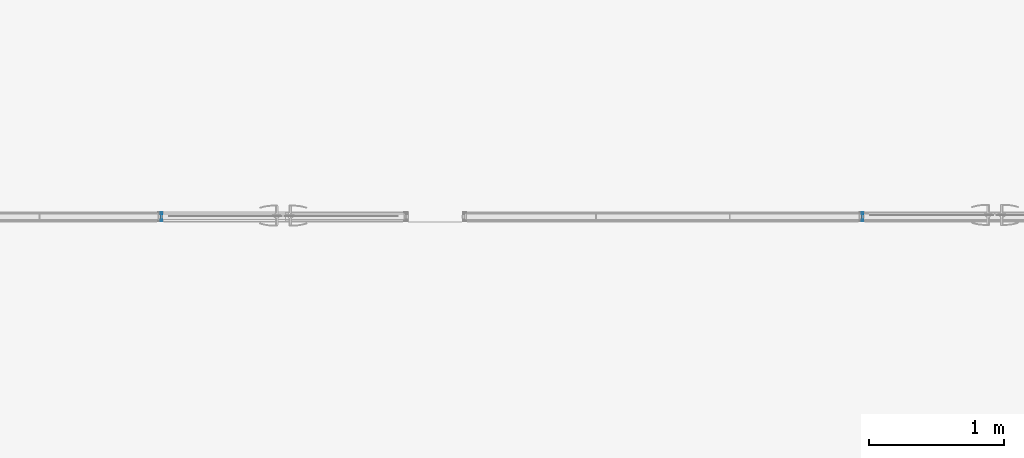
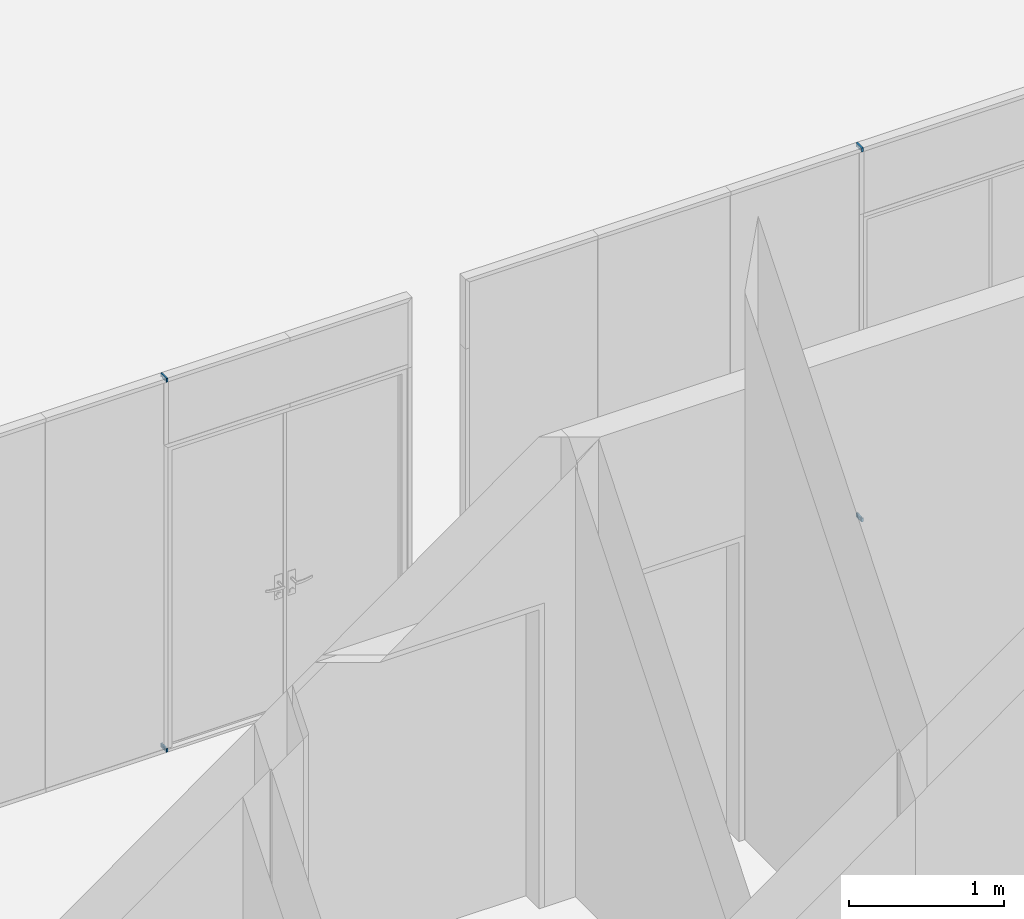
# One storey, part 32 of 62: 8 building element parts, 6 elements without a shape of their own.
"""IFC2X3 building model written with IfcOpenShell, lengths in millimetres."""

from ifc_helpers import new_model, entity, si_unit, converted_unit, derived_unit, money_unit, direction, frame, origin_with_axes, place, context, subcontext, project, spatial, faceted_brep, source, transform, mapped, material, type_object, element, aggregate, save


model = new_model("IFC2X3")

# Units and contexts
model_context = context("Model", 3, precision=0.01, world=origin_with_axes(), true_north=direction((0.0, 1.0)))
body_context = subcontext(model_context, "Body", "Model", "MODEL_VIEW")
ifc_project = project(units=[si_unit("LENGTHUNIT", "METRE", prefix="MILLI"), si_unit("AREAUNIT", "SQUARE_METRE"), si_unit("VOLUMEUNIT", "CUBIC_METRE"), converted_unit("PLANEANGLEUNIT", "DEGREE", entity("IfcPlaneAngleMeasure", 0.0174532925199), si_unit("PLANEANGLEUNIT", "RADIAN"), dimensions=[0, 0, 0, 0, 0, 0, 0]), si_unit("SOLIDANGLEUNIT", "STERADIAN"), money_unit("EUR"), converted_unit("TIMEUNIT", "Year", entity("IfcTimeMeasure", 31556926.0), si_unit("TIMEUNIT", "SECOND"), dimensions=[0, 0, 1, 0, 0, 0, 0]), si_unit("MASSUNIT", "GRAM", prefix="KILO"), si_unit("THERMODYNAMICTEMPERATUREUNIT", "DEGREE_CELSIUS"), si_unit("LUMINOUSINTENSITYUNIT", "LUMEN"), si_unit("ENERGYUNIT", "JOULE", prefix="MEGA"), derived_unit("THERMALCONDUCTANCEUNIT", [(si_unit("POWERUNIT", "WATT"), 1), (si_unit("LENGTHUNIT", "METRE"), -1), (si_unit("THERMODYNAMICTEMPERATUREUNIT", "KELVIN"), -1)]), derived_unit("SPECIFICHEATCAPACITYUNIT", [(si_unit("ENERGYUNIT", "JOULE"), 1), (si_unit("MASSUNIT", "GRAM", prefix="KILO"), -1), (si_unit("THERMODYNAMICTEMPERATUREUNIT", "KELVIN"), -1)]), derived_unit("MASSDENSITYUNIT", [(si_unit("MASSUNIT", "GRAM", prefix="KILO"), 1), (si_unit("VOLUMEUNIT", "CUBIC_METRE"), -1)])], contexts=[model_context])

# Site, building, storey
site_placement = place(None, origin_with_axes())
site = spatial("IfcSite", under=ifc_project, at=site_placement, Name="Puškini 31, Narva", CompositionType="ELEMENT")
building_placement = place(site_placement, origin_with_axes())
building = spatial("IfcBuilding", under=site, at=building_placement, Name="Narva Riigigümnaasium", CompositionType="ELEMENT")
storey_placement = place(building_placement, frame((0.0, 0.0, 660.0), z_axis=(0.0, 0.0, 1.0), x_axis=(1.0, 0.0, 0.0)))
storey = spatial("IfcBuildingStorey", under=building, at=storey_placement, Name="2.korrus +0.66", CompositionType="ELEMENT", Elevation=660.0)

# Curtain wall, members, building element parts
curtain_wall_type = type_object("IfcCurtainWallType", Name="Curtain Wall Type", PredefinedType="NOTDEFINED")
curtain_wall_1_placement = place(storey_placement, frame((45089.2571373, 223837.000216, -1.99739158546e-06), z_axis=(0.0, 0.0, 1.0), x_axis=(1.0, 0.0, 0.0)))
curtain_wall_1 = element("IfcCurtainWall", 1, at=curtain_wall_1_placement, inside=storey, type_object=curtain_wall_type, Name="G-SKLF-52")
member_type_1 = type_object("IfcMemberType", Name="30 x 37", PredefinedType="MULLION")
member_1_placement = place(curtain_wall_1_placement, frame((431.542856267, 0.0, 0.0), z_axis=(-1.0, 0.0, 0.0), x_axis=(0.0, 0.0, 1.0)))
member_1 = element("IfcMember", 2, at=member_1_placement, type_object=member_type_1, Name="G-SKLF-68-raam", ObjectType="MULLION")
ifc_material_1 = material(Name="Klaasvill")
shared_shape_1 = source(origin_with_axes(), body_context, "Body", "Brep", [
    faceted_brep([(7.49999990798, 20.000000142, 0.0), (13.8499999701, 20.000000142, 0.0), (13.8499999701, 20.000000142, 12.9999942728), (7.49999990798, 20.000000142, 12.9999942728), (7.49999990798, 34.0161444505, 0.0), (13.8499999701, 34.0161444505, 0.0), (13.8499999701, 34.0161444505, 12.9999942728), (7.49999990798, 34.0161444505, 12.9999942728)], [[[0, 1, 2, 3]], [[0, 4, 5, 1]], [[1, 5, 6, 2]], [[3, 2, 6, 7]], [[4, 0, 3, 7]], [[5, 4, 7, 6]]]),
    faceted_brep([(24.987414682, 34.0161444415, 0.0), (25.004489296, 32.0307503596, 0.0), (25.004489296, 32.0307503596, 12.9999942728), (24.987414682, 34.0161444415, 12.9999942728), (28.5126239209, 34.0161444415, 0.0), (28.7655837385, 33.0385325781, 0.0), (28.4955493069, 32.0307503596, 0.0), (27.75780152, 31.2930025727, 0.0), (26.7500193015, 31.0229681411, 0.0), (25.742237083, 31.2930025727, 0.0), (25.742237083, 31.2930025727, 12.9999942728), (26.7500193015, 31.0229681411, 12.9999942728), (27.75780152, 31.2930025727, 12.9999942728), (28.4955493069, 32.0307503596, 12.9999942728), (28.7655837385, 33.0385325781, 12.9999942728), (28.5126239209, 34.0161444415, 12.9999942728)], [[[0, 1, 2, 3]], [[0, 4, 5, 6, 7, 8, 9, 1]], [[1, 9, 10, 2]], [[3, 2, 10, 11, 12, 13, 14, 15]], [[4, 0, 3, 15]], [[5, 4, 15, 14]], [[6, 5, 14, 13]], [[7, 6, 13, 12]], [[8, 7, 12, 11]], [[9, 8, 11, 10]]]),
    faceted_brep([(7.49999990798, -19.9999997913, 0.0), (7.49999990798, -34.0161445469, 0.0), (7.49999990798, -34.0161445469, 12.9999942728), (7.49999990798, -19.9999997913, 12.9999942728), (13.8499999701, -19.9999997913, 0.0), (13.8499999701, -34.0161445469, 0.0), (13.8499999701, -34.0161445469, 12.9999942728), (13.8499999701, -19.9999997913, 12.9999942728)], [[[0, 1, 2, 3]], [[0, 4, 5, 1]], [[1, 5, 6, 2]], [[3, 2, 6, 7]], [[4, 0, 3, 7]], [[5, 4, 7, 6]]]),
    faceted_brep([(25.004489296, -32.0307503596, 0.0), (24.987414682, -34.0161444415, 0.0), (24.987414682, -34.0161444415, 12.9999942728), (25.004489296, -32.0307503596, 12.9999942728), (25.742237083, -31.2930025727, 0.0), (26.7500193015, -31.0229681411, 0.0), (27.75780152, -31.2930025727, 0.0), (28.4955493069, -32.0307503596, 0.0), (28.7655837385, -33.0385325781, 0.0), (28.5126239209, -34.0161444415, 0.0), (28.5126239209, -34.0161444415, 12.9999942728), (28.7655837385, -33.0385325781, 12.9999942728), (28.4955493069, -32.0307503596, 12.9999942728), (27.75780152, -31.2930025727, 12.9999942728), (26.7500193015, -31.0229681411, 12.9999942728), (25.742237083, -31.2930025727, 12.9999942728)], [[[0, 1, 2, 3]], [[0, 4, 5, 6, 7, 8, 9, 1]], [[1, 9, 10, 2]], [[3, 2, 10, 11, 12, 13, 14, 15]], [[4, 0, 3, 15]], [[5, 4, 15, 14]], [[6, 5, 14, 13]], [[7, 6, 13, 12]], [[8, 7, 12, 11]], [[9, 8, 11, 10]]]),
])
building_element_part_1_placement = place(member_1_placement, origin_with_axes())
building_element_part_1 = element("IfcBuildingElementPart", 3, at=building_element_part_1_placement, material=ifc_material_1, Name="Klaasvill", context=body_context, shape_type="MappedRepresentation", body=[
    mapped(shared_shape_1, transform((0.0, 0.0, 0.0))),
])
member_2_placement = place(curtain_wall_1_placement, frame((418.5428578, 0.0, 2949.99994304), z_axis=(1.0, 0.0, 0.0), x_axis=(0.0, 0.0, -1.0)))
member_2 = element("IfcMember", 4, at=member_2_placement, type_object=member_type_1, Name="G-SKLF-61-raam", ObjectType="MULLION")
aggregate(curtain_wall_1, [member_1, member_2])
building_element_part_2_placement = place(member_2_placement, origin_with_axes())
building_element_part_2 = element("IfcBuildingElementPart", 5, at=building_element_part_2_placement, material=ifc_material_1, Name="Klaasvill", context=body_context, shape_type="MappedRepresentation", body=[
    mapped(shared_shape_1, transform((0.0, 0.0, 0.0))),
])
ifc_material_2 = material(Name="Teras RAL7012")
shared_shape_2 = source(origin_with_axes(), body_context, "Body", "Brep", [
    faceted_brep([(0.0, -17.0000000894, 0.0), (29.5999996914, -17.0000000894, 0.0), (29.5999996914, -17.0000000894, 12.9999942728), (0.0, -17.0000000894, 12.9999942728), (0.0, 17.0000000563, 0.0), (29.5999996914, 17.0000000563, 0.0), (1.9999999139, 15.0000001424, 0.0), (1.9999999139, -15.0000001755, 0.0), (18.7999996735, -15.0000001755, 0.0), (18.7999996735, 15.0000001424, 0.0), (29.5999996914, 17.0000000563, 12.9999942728), (0.0, 17.0000000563, 12.9999942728), (1.9999999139, 15.0000001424, 12.9999942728), (18.7999996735, 15.0000001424, 12.9999942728), (18.7999996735, -15.0000001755, 12.9999942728), (1.9999999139, -15.0000001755, 12.9999942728)], [[[0, 1, 2, 3]], [[0, 4, 5, 1], [6, 7, 8, 9]], [[1, 5, 10, 2]], [[3, 2, 10, 11], [12, 13, 14, 15]], [[4, 0, 3, 11]], [[5, 4, 11, 10]], [[7, 6, 12, 15]], [[8, 7, 15, 14]], [[9, 8, 14, 13]], [[6, 9, 13, 12]]]),
    faceted_brep([(0.0, 17.0, 0.0), (29.5999996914, 17.0000000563, 0.0), (29.5999996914, 17.0000000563, 12.9999942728), (0.0, 17.0, 12.9999942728), (0.0, 37.0, 0.0), (30.0000193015, 37.0, 0.0), (30.0000193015, 34.0161444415, 0.0), (28.5126239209, 34.0161444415, 0.0), (24.987414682, 34.0161444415, 0.0), (13.8499999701, 34.0161444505, 0.0), (7.49999999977, 34.0161444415, 0.0), (7.49999999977, 20.0, 0.0), (13.8499999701, 20.000000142, 0.0), (30.0000193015, 20.0, 0.0), (30.0000193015, 17.0, 0.0), (30.0000193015, 17.0, 12.9999942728), (30.0000193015, 20.0, 12.9999942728), (13.8499999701, 20.000000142, 12.9999942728), (7.49999999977, 20.0, 12.9999942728), (7.49999999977, 34.0161444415, 12.9999942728), (13.8499999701, 34.0161444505, 12.9999942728), (24.987414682, 34.0161444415, 12.9999942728), (28.5126239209, 34.0161444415, 12.9999942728), (30.0000193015, 34.0161444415, 12.9999942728), (30.0000193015, 37.0, 12.9999942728), (0.0, 37.0, 12.9999942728)], [[[0, 1, 2, 3]], [[0, 4, 5, 6, 7, 8, 9, 10, 11, 12, 13, 14, 1]], [[1, 14, 15, 2]], [[3, 2, 15, 16, 17, 18, 19, 20, 21, 22, 23, 24, 25]], [[4, 0, 3, 25]], [[5, 4, 25, 24]], [[6, 5, 24, 23]], [[7, 6, 23, 22]], [[8, 7, 22, 21]], [[9, 8, 21, 20]], [[10, 9, 20, 19]], [[11, 10, 19, 18]], [[12, 11, 18, 17]], [[13, 12, 17, 16]], [[14, 13, 16, 15]]]),
    faceted_brep([(0.0, -17.0, 0.0), (0.0, -37.0, 0.0), (0.0, -37.0, 12.9999942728), (0.0, -17.0, 12.9999942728), (29.5999996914, -17.0000000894, 0.0), (30.0000193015, -17.0, 0.0), (30.0000193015, -20.0, 0.0), (13.8499999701, -19.9999997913, 0.0), (7.49999999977, -20.0, 0.0), (7.49999999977, -34.0161444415, 0.0), (13.8499999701, -34.0161445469, 0.0), (24.987414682, -34.0161444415, 0.0), (28.5126239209, -34.0161444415, 0.0), (30.0000193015, -34.0161444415, 0.0), (30.0000193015, -37.0, 0.0), (30.0000193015, -37.0, 12.9999942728), (30.0000193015, -34.0161444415, 12.9999942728), (28.5126239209, -34.0161444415, 12.9999942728), (24.987414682, -34.0161444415, 12.9999942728), (13.8499999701, -34.0161445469, 12.9999942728), (7.49999999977, -34.0161444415, 12.9999942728), (7.49999999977, -20.0, 12.9999942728), (13.8499999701, -19.9999997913, 12.9999942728), (30.0000193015, -20.0, 12.9999942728), (30.0000193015, -17.0, 12.9999942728), (29.5999996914, -17.0000000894, 12.9999942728)], [[[0, 1, 2, 3]], [[0, 4, 5, 6, 7, 8, 9, 10, 11, 12, 13, 14, 1]], [[1, 14, 15, 2]], [[3, 2, 15, 16, 17, 18, 19, 20, 21, 22, 23, 24, 25]], [[4, 0, 3, 25]], [[5, 4, 25, 24]], [[6, 5, 24, 23]], [[7, 6, 23, 22]], [[8, 7, 22, 21]], [[9, 8, 21, 20]], [[10, 9, 20, 19]], [[11, 10, 19, 18]], [[12, 11, 18, 17]], [[13, 12, 17, 16]], [[14, 13, 16, 15]]]),
])
building_element_part_3_placement = place(member_1_placement, origin_with_axes())
building_element_part_3 = element("IfcBuildingElementPart", 6, at=building_element_part_3_placement, material=ifc_material_2, Name="Teras RAL7012", context=body_context, shape_type="MappedRepresentation", body=[
    mapped(shared_shape_2, transform((0.0, 0.0, 0.0))),
])
aggregate(member_1, [building_element_part_1, building_element_part_3])
building_element_part_4_placement = place(member_2_placement, origin_with_axes())
building_element_part_4 = element("IfcBuildingElementPart", 7, at=building_element_part_4_placement, material=ifc_material_2, Name="Teras RAL7012", context=body_context, shape_type="MappedRepresentation", body=[
    mapped(shared_shape_2, transform((0.0, 0.0, 0.0))),
])
aggregate(member_2, [building_element_part_2, building_element_part_4])

curtain_wall_2_placement = place(storey_placement, frame((41241.6, 223837.000007, -1.99739158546e-06), z_axis=(0.0, 0.0, 1.0), x_axis=(1.0, 0.0, 0.0)))
curtain_wall_2 = element("IfcCurtainWall", 8, at=curtain_wall_2_placement, inside=storey, type_object=curtain_wall_type, Name="G-SKLF-53")
member_type_2 = type_object("IfcMemberType", Name="Boundary Frame 30 x 37", PredefinedType="MULLION")
member_3_placement = place(curtain_wall_2_placement, frame((-910.4, 0.0, 2949.99999445), z_axis=(-1.0, 0.0, 0.0), x_axis=(0.0, 0.0, -1.0)))
member_3 = element("IfcMember", 9, at=member_3_placement, type_object=member_type_2, Name="G-SKLF-95-raam", ObjectType="MULLION")
shared_shape_3 = source(origin_with_axes(), body_context, "Body", "Brep", [
    faceted_brep([(-7.49999990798, 20.000000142, 0.0), (-7.49999990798, 20.000000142, 13.0000053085), (-13.8499999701, 20.000000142, 13.0000053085), (-13.8499999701, 20.000000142, 0.0), (-7.49999990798, 34.0161444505, 0.0), (-7.49999990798, 34.0161444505, 13.0000053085), (-13.8499999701, 34.0161444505, 13.0000053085), (-13.8499999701, 34.0161444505, 0.0)], [[[0, 1, 2, 3]], [[4, 5, 1, 0]], [[1, 5, 6, 2]], [[3, 2, 6, 7]], [[0, 3, 7, 4]], [[7, 6, 5, 4]]]),
    faceted_brep([(-24.987414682, 34.0161444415, 0.0), (-24.987414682, 34.0161444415, 13.0000053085), (-25.004489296, 32.0307503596, 13.0000053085), (-25.004489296, 32.0307503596, 0.0), (-28.5126239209, 34.0161444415, 0.0), (-28.5126239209, 34.0161444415, 13.0000053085), (-28.7655837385, 33.0385325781, 13.0000053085), (-28.4955493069, 32.0307503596, 13.0000053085), (-27.75780152, 31.2930025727, 13.0000053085), (-26.7500193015, 31.0229681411, 13.0000053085), (-25.742237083, 31.2930025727, 13.0000053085), (-25.742237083, 31.2930025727, 0.0), (-26.7500193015, 31.0229681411, 0.0), (-27.75780152, 31.2930025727, 0.0), (-28.4955493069, 32.0307503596, 0.0), (-28.7655837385, 33.0385325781, 0.0)], [[[0, 1, 2, 3]], [[4, 5, 1, 0]], [[1, 5, 6, 7, 8, 9, 10, 2]], [[3, 2, 10, 11]], [[0, 3, 11, 12, 13, 14, 15, 4]], [[15, 6, 5, 4]], [[14, 7, 6, 15]], [[13, 8, 7, 14]], [[12, 9, 8, 13]], [[11, 10, 9, 12]]]),
    faceted_brep([(-7.49999990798, -19.9999997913, 0.0), (-7.49999990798, -19.9999997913, 13.0000053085), (-7.49999990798, -34.0161445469, 13.0000053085), (-7.49999990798, -34.0161445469, 0.0), (-13.8499999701, -19.9999997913, 0.0), (-13.8499999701, -19.9999997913, 13.0000053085), (-13.8499999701, -34.0161445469, 13.0000053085), (-13.8499999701, -34.0161445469, 0.0)], [[[0, 1, 2, 3]], [[4, 5, 1, 0]], [[1, 5, 6, 2]], [[3, 2, 6, 7]], [[0, 3, 7, 4]], [[7, 6, 5, 4]]]),
    faceted_brep([(-25.004489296, -32.0307503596, 0.0), (-25.004489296, -32.0307503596, 13.0000053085), (-24.987414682, -34.0161444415, 13.0000053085), (-24.987414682, -34.0161444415, 0.0), (-25.742237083, -31.2930025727, 0.0), (-25.742237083, -31.2930025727, 13.0000053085), (-26.7500193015, -31.0229681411, 13.0000053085), (-27.75780152, -31.2930025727, 13.0000053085), (-28.4955493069, -32.0307503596, 13.0000053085), (-28.7655837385, -33.0385325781, 13.0000053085), (-28.5126239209, -34.0161444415, 13.0000053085), (-28.5126239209, -34.0161444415, 0.0), (-28.7655837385, -33.0385325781, 0.0), (-28.4955493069, -32.0307503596, 0.0), (-27.75780152, -31.2930025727, 0.0), (-26.7500193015, -31.0229681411, 0.0)], [[[0, 1, 2, 3]], [[4, 5, 1, 0]], [[1, 5, 6, 7, 8, 9, 10, 2]], [[3, 2, 10, 11]], [[0, 3, 11, 12, 13, 14, 15, 4]], [[15, 6, 5, 4]], [[14, 7, 6, 15]], [[13, 8, 7, 14]], [[12, 9, 8, 13]], [[11, 10, 9, 12]]]),
])
building_element_part_5_placement = place(member_3_placement, origin_with_axes())
building_element_part_5 = element("IfcBuildingElementPart", 10, at=building_element_part_5_placement, material=ifc_material_1, Name="Klaasvill", context=body_context, shape_type="MappedRepresentation", body=[
    mapped(shared_shape_3, transform((0.0, 0.0, 0.0), x_axis=(-1.0, 0.0, 0.0), y_axis=(0.0, -1.0, 0.0), z_axis=(0.0, 0.0, 1.0))),
])
member_4_placement = place(curtain_wall_2_placement, frame((-923.400005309, 0.0, 0.0), z_axis=(1.0, 0.0, 0.0), x_axis=(0.0, 0.0, 1.0)))
member_4 = element("IfcMember", 11, at=member_4_placement, type_object=member_type_2, Name="G-SKLF-83-raam", ObjectType="MULLION")
aggregate(curtain_wall_2, [member_3, member_4])
building_element_part_6_placement = place(member_4_placement, origin_with_axes())
building_element_part_6 = element("IfcBuildingElementPart", 12, at=building_element_part_6_placement, material=ifc_material_1, Name="Klaasvill", context=body_context, shape_type="MappedRepresentation", body=[
    mapped(shared_shape_3, transform((0.0, 0.0, 0.0), x_axis=(-1.0, 0.0, 0.0), y_axis=(0.0, -1.0, 0.0), z_axis=(0.0, 0.0, 1.0))),
])
shared_shape_4 = source(origin_with_axes(), body_context, "Body", "Brep", [
    faceted_brep([(0.0, -17.0000000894, 0.0), (0.0, -17.0000000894, 13.0000053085), (-29.5999996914, -17.0000000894, 13.0000053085), (-29.5999996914, -17.0000000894, 0.0), (0.0, 17.0000000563, 0.0), (0.0, 17.0000000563, 13.0000053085), (-29.5999996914, 17.0000000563, 13.0000053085), (-1.9999999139, 15.0000001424, 13.0000053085), (-1.9999999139, -15.0000001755, 13.0000053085), (-18.7999996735, -15.0000001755, 13.0000053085), (-18.7999996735, 15.0000001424, 13.0000053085), (-29.5999996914, 17.0000000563, 0.0), (-1.9999999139, 15.0000001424, 0.0), (-18.7999996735, 15.0000001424, 0.0), (-18.7999996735, -15.0000001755, 0.0), (-1.9999999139, -15.0000001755, 0.0)], [[[0, 1, 2, 3]], [[4, 5, 1, 0]], [[1, 5, 6, 2], [7, 8, 9, 10]], [[3, 2, 6, 11]], [[0, 3, 11, 4], [12, 13, 14, 15]], [[11, 6, 5, 4]], [[15, 8, 7, 12]], [[14, 9, 8, 15]], [[13, 10, 9, 14]], [[12, 7, 10, 13]]]),
    faceted_brep([(0.0, 17.0, 0.0), (0.0, 17.0, 13.0000053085), (-29.5999996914, 17.0000000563, 13.0000053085), (-29.5999996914, 17.0000000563, 0.0), (0.0, 37.0, 0.0), (0.0, 37.0, 13.0000053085), (-30.0000193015, 37.0, 13.0000053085), (-30.0000193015, 34.0161444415, 13.0000053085), (-28.5126239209, 34.0161444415, 13.0000053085), (-24.987414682, 34.0161444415, 13.0000053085), (-13.8499999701, 34.0161444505, 13.0000053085), (-7.49999999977, 34.0161444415, 13.0000053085), (-7.49999999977, 20.0, 13.0000053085), (-13.8499999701, 20.000000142, 13.0000053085), (-30.0000193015, 20.0, 13.0000053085), (-30.0000193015, 17.0, 13.0000053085), (-30.0000193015, 17.0, 0.0), (-30.0000193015, 20.0, 0.0), (-13.8499999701, 20.000000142, 0.0), (-7.49999999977, 20.0, 0.0), (-7.49999999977, 34.0161444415, 0.0), (-13.8499999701, 34.0161444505, 0.0), (-24.987414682, 34.0161444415, 0.0), (-28.5126239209, 34.0161444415, 0.0), (-30.0000193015, 34.0161444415, 0.0), (-30.0000193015, 37.0, 0.0)], [[[0, 1, 2, 3]], [[4, 5, 1, 0]], [[1, 5, 6, 7, 8, 9, 10, 11, 12, 13, 14, 15, 2]], [[3, 2, 15, 16]], [[0, 3, 16, 17, 18, 19, 20, 21, 22, 23, 24, 25, 4]], [[25, 6, 5, 4]], [[24, 7, 6, 25]], [[23, 8, 7, 24]], [[22, 9, 8, 23]], [[21, 10, 9, 22]], [[20, 11, 10, 21]], [[19, 12, 11, 20]], [[18, 13, 12, 19]], [[17, 14, 13, 18]], [[16, 15, 14, 17]]]),
    faceted_brep([(0.0, -17.0, 0.0), (0.0, -17.0, 13.0000053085), (0.0, -37.0, 13.0000053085), (0.0, -37.0, 0.0), (-29.5999996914, -17.0000000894, 0.0), (-29.5999996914, -17.0000000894, 13.0000053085), (-30.0000193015, -17.0, 13.0000053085), (-30.0000193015, -20.0, 13.0000053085), (-13.8499999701, -19.9999997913, 13.0000053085), (-7.49999999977, -20.0, 13.0000053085), (-7.49999999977, -34.0161444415, 13.0000053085), (-13.8499999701, -34.0161445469, 13.0000053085), (-24.987414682, -34.0161444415, 13.0000053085), (-28.5126239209, -34.0161444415, 13.0000053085), (-30.0000193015, -34.0161444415, 13.0000053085), (-30.0000193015, -37.0, 13.0000053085), (-30.0000193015, -37.0, 0.0), (-30.0000193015, -34.0161444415, 0.0), (-28.5126239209, -34.0161444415, 0.0), (-24.987414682, -34.0161444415, 0.0), (-13.8499999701, -34.0161445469, 0.0), (-7.49999999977, -34.0161444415, 0.0), (-7.49999999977, -20.0, 0.0), (-13.8499999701, -19.9999997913, 0.0), (-30.0000193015, -20.0, 0.0), (-30.0000193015, -17.0, 0.0)], [[[0, 1, 2, 3]], [[4, 5, 1, 0]], [[1, 5, 6, 7, 8, 9, 10, 11, 12, 13, 14, 15, 2]], [[3, 2, 15, 16]], [[0, 3, 16, 17, 18, 19, 20, 21, 22, 23, 24, 25, 4]], [[25, 6, 5, 4]], [[24, 7, 6, 25]], [[23, 8, 7, 24]], [[22, 9, 8, 23]], [[21, 10, 9, 22]], [[20, 11, 10, 21]], [[19, 12, 11, 20]], [[18, 13, 12, 19]], [[17, 14, 13, 18]], [[16, 15, 14, 17]]]),
])
building_element_part_7_placement = place(member_3_placement, origin_with_axes())
building_element_part_7 = element("IfcBuildingElementPart", 13, at=building_element_part_7_placement, material=ifc_material_2, Name="Teras RAL7012", context=body_context, shape_type="MappedRepresentation", body=[
    mapped(shared_shape_4, transform((0.0, 0.0, 0.0), x_axis=(-1.0, 0.0, 0.0), y_axis=(0.0, -1.0, 0.0), z_axis=(0.0, 0.0, 1.0))),
])
aggregate(member_3, [building_element_part_5, building_element_part_7])
building_element_part_8_placement = place(member_4_placement, origin_with_axes())
building_element_part_8 = element("IfcBuildingElementPart", 14, at=building_element_part_8_placement, material=ifc_material_2, Name="Teras RAL7012", context=body_context, shape_type="MappedRepresentation", body=[
    mapped(shared_shape_4, transform((0.0, 0.0, 0.0), x_axis=(-1.0, 0.0, 0.0), y_axis=(0.0, -1.0, 0.0), z_axis=(0.0, 0.0, 1.0))),
])
aggregate(member_4, [building_element_part_6, building_element_part_8])

save(model, "model.ifc")
